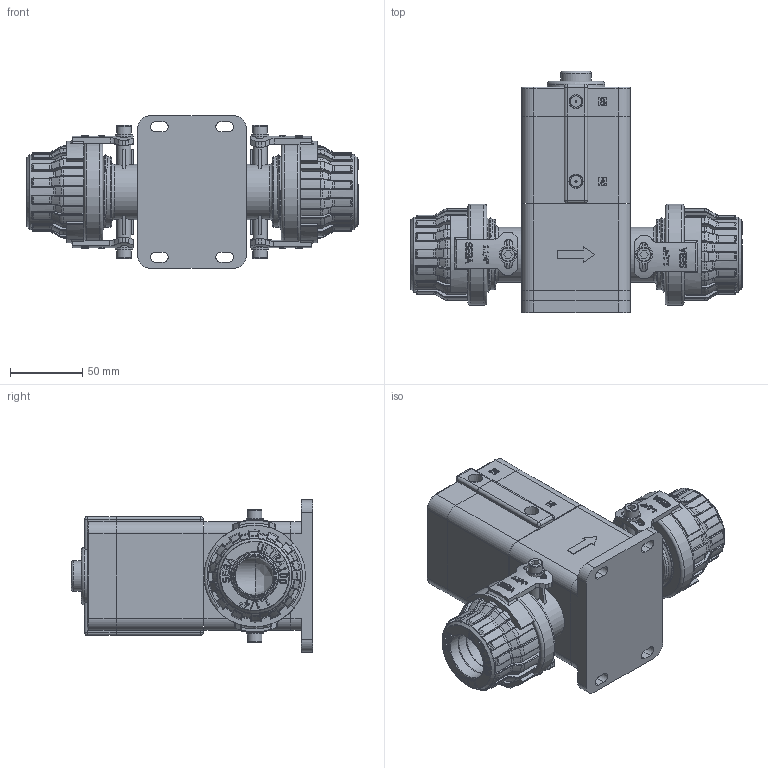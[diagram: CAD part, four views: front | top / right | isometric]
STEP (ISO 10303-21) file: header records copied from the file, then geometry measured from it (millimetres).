
FILE_DESCRIPTION(/* description */ (''),/* implementation_level */ '2;1');
FILE_NAME(/* name */ 'AV_stp.stp',/* time_stamp */ '2020-03-12T08:49:35+09:00',/* author */ (''),/* organization */ (''),/* preprocessor_version */ 'ST-DEVELOPER v11',/* originating_system */ 'SIEMENS PLM Software NX 7.5',/* authorisation */ '');
FILE_SCHEMA (('AUTOMOTIVE_DESIGN { 1 0 10303 214 1 1 1 1 }'));
Products named in the file (19): Lock Pin(1.14); Sleeve Ring(1.14); NUT(1.14); BOLT M6(10mm); 1.14  BODY _MIR; 1.14  BODY; body(1.14); Spring; Inner_Spring; Cover; INDICATOR; PISTON; UPPER-CASE-11; LOWER-CASE-11; DIAPHRAGM; base; Nut Assy; MF1.14 BODY; AV_stp
Assembly tree (23 placements, depth 4):
  AV_stp
    base
    MF1.14 BODY
      body(1.14)
      1.14  BODY
      Nut Assy  x2
        NUT(1.14)
        Sleeve Ring(1.14)
        Lock Pin(1.14)
      1.14  BODY _MIR
      BOLT M6(10mm)  x4
    DIAPHRAGM
    LOWER-CASE-11
    UPPER-CASE-11
    PISTON
    INDICATOR
    Cover
    Inner_Spring
    Spring
Bounding box: 229 x 166.5 x 105 mm (x, y, z)
Volume: 848555.9 mm3; surface area: 361390.6 mm2
Topology: 24 solids, 24 shells, 3644 faces, 9560 edges, 6107 vertices
Faces by surface type: plane 1516, cylinder 917, bspline 671, torus 324, cone 208, sphere 8
Full cylindrical faces by diameter (mm): 1 x2, 1.5 x1, 3 x1, 4.134 x4, 5 x1, 6 x5, 6.5 x12, 7 x4, 7.9 x2, 8.106 x1, 10 x10, 11 x4, 12 x5, 15 x2, 18 x3, 19 x1, 21 x1, 22 x1, 23.85 x1, 24 x4, 25 x3, 26 x3, 26.7 x4, 27.8 x2, 29.175 x2, 30 x2, 32 x1, 32.5 x4, 35 x2, 35.8 x2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
Entity records: 75686 total; most frequent: CARTESIAN_POINT 28289, ORIENTED_EDGE 9968, DIRECTION 8862, EDGE_CURVE 4984, VERTEX_POINT 3295, AXIS2_PLACEMENT_3D 3218, EDGE_LOOP 2438, LINE 2426
